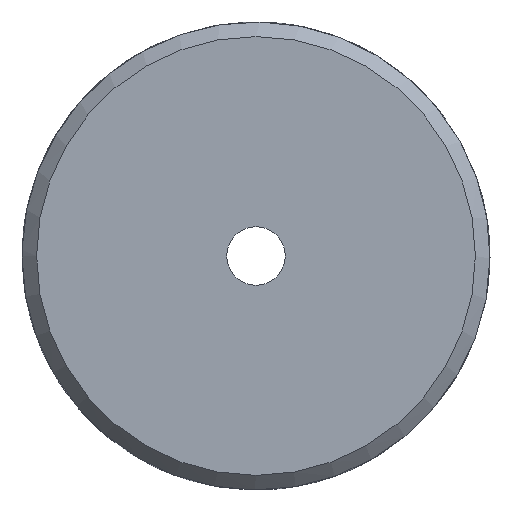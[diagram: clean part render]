
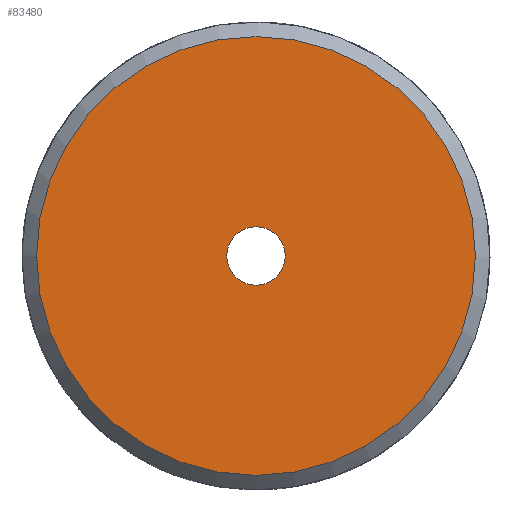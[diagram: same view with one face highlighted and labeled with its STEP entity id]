
A CAD part, left-side view. The second image highlights one B-rep face of the part: STEP entity #83480.
In plain terms, the highlighted planar face has unit normal (-1, 0, 0).
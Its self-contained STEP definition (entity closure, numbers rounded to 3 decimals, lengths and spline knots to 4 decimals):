
#23887=PLANE('',#82417);
#30827=ORIENTED_EDGE('',*,*,#33180,.F.);
#30828=ORIENTED_EDGE('',*,*,#35564,.F.);
#30830=CIRCLE('',#80896,7.5);
#31592=CIRCLE('',#82416,1.);
#31594=VERTEX_POINT('',#40240);
#33178=VERTEX_POINT('',#80889);
#33180=EDGE_CURVE('',#31594,#31594,#30830,.T.);
#35564=EDGE_CURVE('',#33178,#33178,#31592,.T.);
#36373=EDGE_LOOP('',(#30827));
#36374=EDGE_LOOP('',(#30828));
#37183=FACE_BOUND('',#36373,.T.);
#37184=FACE_BOUND('',#36374,.T.);
#37189=DIRECTION('',(1.,0.,0.));
#37190=DIRECTION('',(0.,0.,-7.5));
#40229=DIRECTION('',(-1.,0.,0.));
#40230=DIRECTION('',(0.,-1.,0.));
#40231=DIRECTION('',(-1.,0.,0.));
#40232=DIRECTION('',(0.,1.,0.));
#40240=CARTESIAN_POINT('',(38.3943,57.018,-7.5));
#40241=CARTESIAN_POINT('',(38.3943,57.018,0.));
#80889=CARTESIAN_POINT('',(38.3943,56.018,0.));
#80890=CARTESIAN_POINT('',(38.3943,57.018,0.));
#80891=CARTESIAN_POINT('',(38.3943,57.018,0.));
#80896=AXIS2_PLACEMENT_3D('',#40241,#37189,#37190);
#82416=AXIS2_PLACEMENT_3D('',#80890,#40229,#40230);
#82417=AXIS2_PLACEMENT_3D('',#80891,#40231,#40232);
#83480=ADVANCED_FACE('',(#37183,#37184),#23887,.T.);
